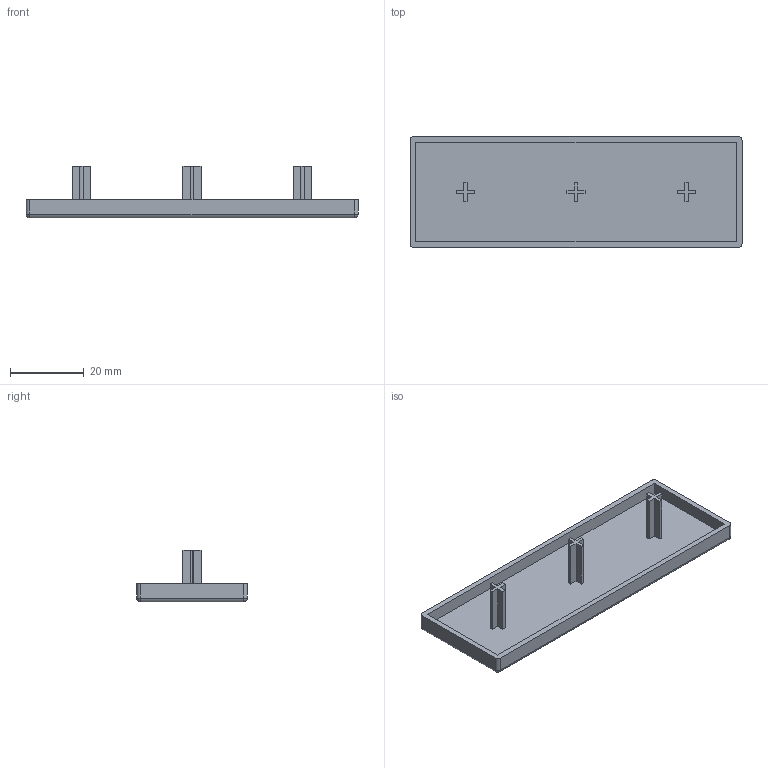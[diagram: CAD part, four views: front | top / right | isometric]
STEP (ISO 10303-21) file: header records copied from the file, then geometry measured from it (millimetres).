
FILE_DESCRIPTION (( 'STEP AP203' ), '1' );
FILE_NAME ('DEC3090.STEP', '2022-06-23T05:49:44', ( '' ), ( '' ), 'SwSTEP 2.0', 'SolidWorks 2017', '' );
FILE_SCHEMA (( 'CONFIG_CONTROL_DESIGN' ));
Length unit declared in the file: millimetre
Products named in the file (1): DEC3090
Bounding box: 90 x 30 x 14 mm (x, y, z)
Volume: 5551 mm3; surface area: 8018.3 mm2
Topology: 1 solids, 1 shells, 65 faces, 169 edges, 106 vertices
Faces by surface type: plane 38, cylinder 23, sphere 4
Entity records: 2026 total; most frequent: DIRECTION 343, CARTESIAN_POINT 337, ORIENTED_EDGE 330, EDGE_CURVE 165, VECTOR 119, LINE 119, AXIS2_PLACEMENT_3D 112, VERTEX_POINT 106
